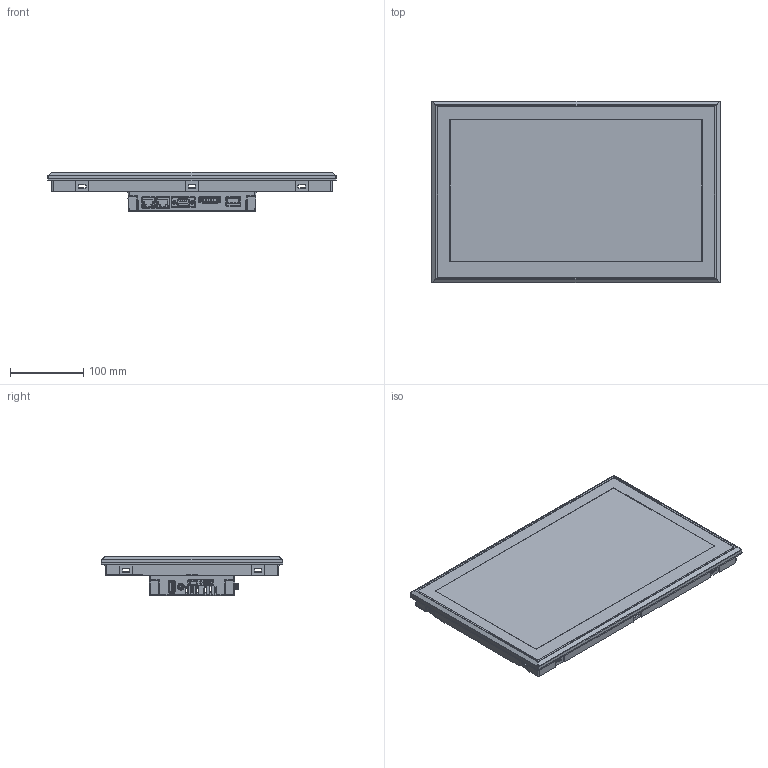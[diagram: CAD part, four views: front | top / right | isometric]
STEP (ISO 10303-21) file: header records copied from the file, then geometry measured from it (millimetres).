
FILE_DESCRIPTION (( 'STEP AP214' ), '1' );
FILE_NAME ('CM-eXT2-15W-DF.STEP', '2025-06-27T06:49:59', ( '' ), ( '' ), 'SwSTEP 2.0', 'SolidWorks 2024', '' );
FILE_SCHEMA (( 'AUTOMOTIVE_DESIGN' ));
Length unit declared in the file: millimetre
Products named in the file (1): CM-eXT2-15W-DF
Bounding box: 394.2 x 248.5 x 53.5 mm (x, y, z)
Volume: 636302.7 mm3; surface area: 527424.3 mm2
Topology: 1 solids, 14 shells, 6173 faces, 16767 edges, 10743 vertices
Faces by surface type: plane 3723, cylinder 1386, bspline 771, cone 124, sphere 108, torus 61
Full cylindrical faces by diameter (mm): 1 x9, 2.46 x28, 3.2 x18, 3.6 x2, 5.3 x6, 6 x1
Entity records: 231834 total; most frequent: CARTESIAN_POINT 78489, ORIENTED_EDGE 33058, DIRECTION 27308, EDGE_CURVE 16529, LINE 11550, VECTOR 11550, VERTEX_POINT 10658, AXIS2_PLACEMENT_3D 7879
